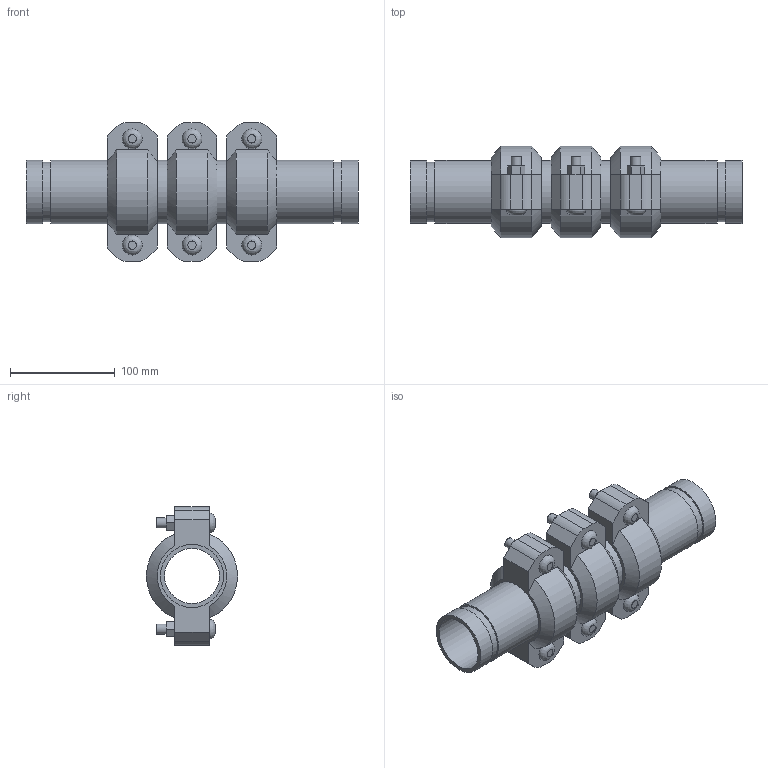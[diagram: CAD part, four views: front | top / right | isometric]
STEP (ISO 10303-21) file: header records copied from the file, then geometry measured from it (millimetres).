
FILE_DESCRIPTION(/* description */ ('VIC EXPANSION JOINT 3 COUPLINGS COMPRESSED STYLE 155 (OGS)','CAx-IF Rec.Pracs.---Representation and Presentation of Product Manufacturing Information (PMI)---4.0---2014-10-13'),/* implementation_level */ '2;1');
FILE_NAME(/* name */ 'C:\Users\kkamble\AppData\Roaming\Autodesk\ApplicationPlugins\Victaulic.Temp\A971\Victaulic_IPS_Expansion Joint_Compressed_3 Couplings_Style 155 (OGS)_2 (50).stp',/* time_stamp */ '2021-06-27T00:25:13+02:00',/* author */ ('kkamble'),/* organization */ ('Victaulic'),/* preprocessor_version */ 'ST-DEVELOPER v17.2',/* originating_system */ 'Autodesk Inventor 2019',/* authorisation */ '');
FILE_SCHEMA (('AP242_MANAGED_MODEL_BASED_3D_ENGINEERING_MIM_LF { 1 0 10303 442 1 1 4 }'));
Length unit declared in the file: inch
Products named in the file (4): 155-02.0; Nipple-02.0; Nipple-02.0_1; 075-02.0
Assembly tree (7 placements, depth 2):
  155-02.0
    Nipple-02.0  x2
    Nipple-02.0_1  x2
    075-02.0  x3
Bounding box: 317.5 x 87.12 x 132.59 mm (x, y, z)
Volume: 801438.4 mm3; surface area: 238308.4 mm2
Topology: 7 solids, 13 shells, 207 faces, 501 edges, 354 vertices
Faces by surface type: plane 126, cylinder 63, cone 12, bspline 6
Full cylindrical faces by diameter (mm): 9.525 x12, 11.43 x6, 52.502 x4, 57.15 x8, 60.325 x15
Entity records: 2675 total; most frequent: CARTESIAN_POINT 477, DIRECTION 439, ORIENTED_EDGE 374, EDGE_CURVE 187, AXIS2_PLACEMENT_3D 174, VERTEX_POINT 134, EDGE_LOOP 101, LINE 91
